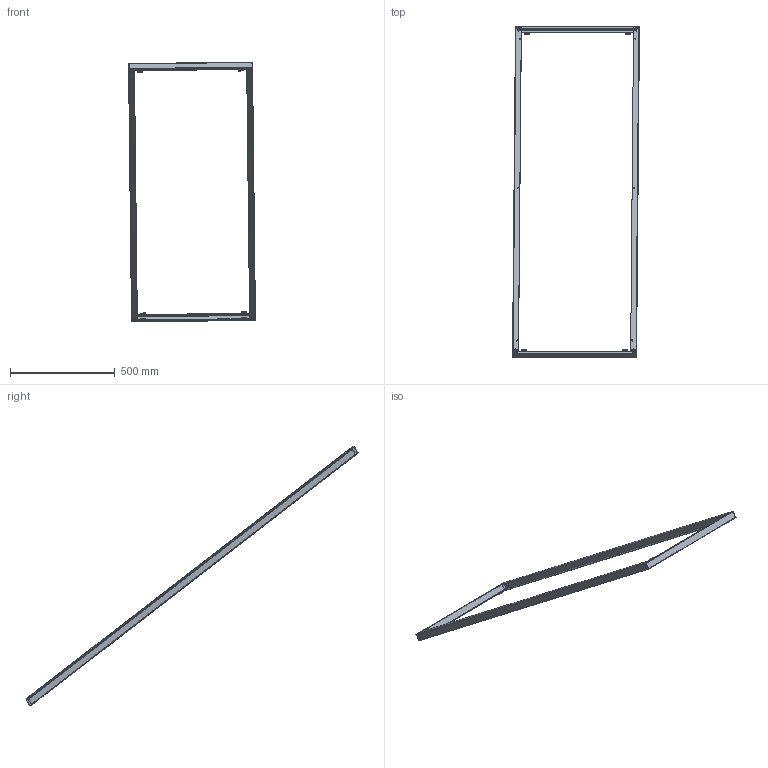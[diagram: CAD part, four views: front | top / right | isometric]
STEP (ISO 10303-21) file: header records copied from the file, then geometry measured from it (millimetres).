
FILE_DESCRIPTION (( 'STEP AP203' ), '1' );
FILE_NAME ('CJDN2006R5_V0.STEP', '2018-03-05T09:05:29', ( '' ), ( '' ), 'SwSTEP 2.0', 'SolidWorks 2017', '' );
FILE_SCHEMA (( 'CONFIG_CONTROL_DESIGN' ));
Length unit declared in the file: millimetre
Products named in the file (7): 9503-0125 Top cover; 9503-0126 Side cover; CJDN2006R5_V0; 9503-0125 Top cover_-01; 9503-0126 Side cover_-02
Assembly tree (4 placements, depth 2):
  9503-0125 Top cover
  9503-0126 Side cover
  9503-0125 Top cover
  9503-0126 Side cover
  CJDN2006R5_V0
    9503-0126 Side cover_-02  x2
    9503-0125 Top cover_-01  x2
Bounding box: 607.13 x 1588.28 x 1243.26 mm (x, y, z)
Volume: 618601.3 mm3; surface area: 842789.3 mm2
Topology: 4 solids, 4 shells, 566 faces, 1354 edges, 796 vertices
Faces by surface type: plane 356, cylinder 170, bspline 40
Entity records: 9336 total; most frequent: CARTESIAN_POINT 2248, ORIENTED_EDGE 1354, DIRECTION 1297, EDGE_CURVE 677, VECTOR 495, LINE 495, AXIS2_PLACEMENT_3D 401, VERTEX_POINT 398
